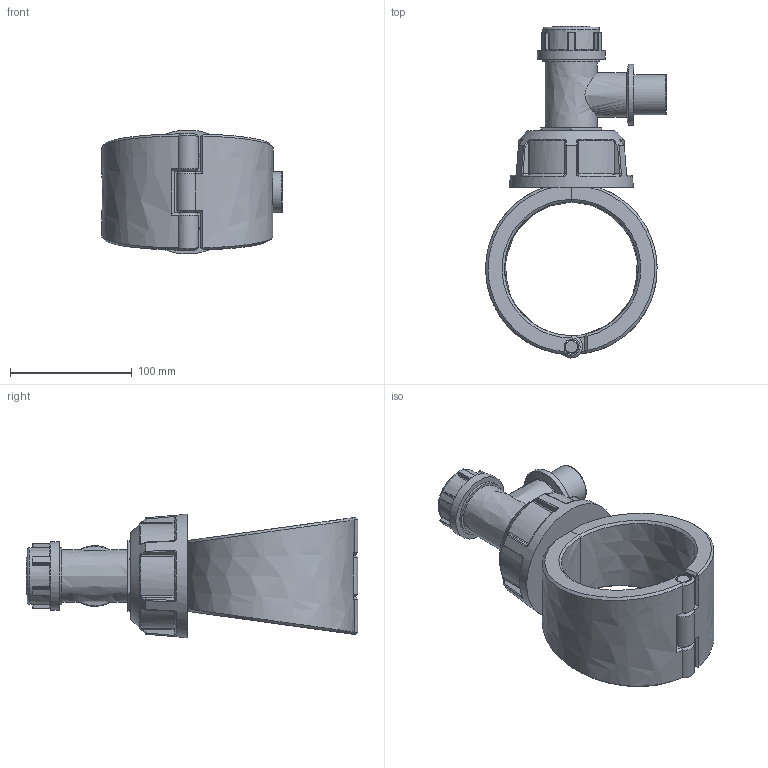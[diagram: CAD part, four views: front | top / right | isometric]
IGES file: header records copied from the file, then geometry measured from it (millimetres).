
Global section: file name: 1631R0110010; native system: Autodesk Inventor 2019; preprocessor: unknown; author: comp2; date: 20220203.120625; units: millimetre
Bounding box: 148.41 x 273 x 101.85 mm (x, y, z)
Volume: 940724.5 mm3; surface area: 135427.5 mm2
Topology: 4 solids, 4 shells, 341 faces, 833 edges, 509 vertices
Faces by surface type: bspline 341
